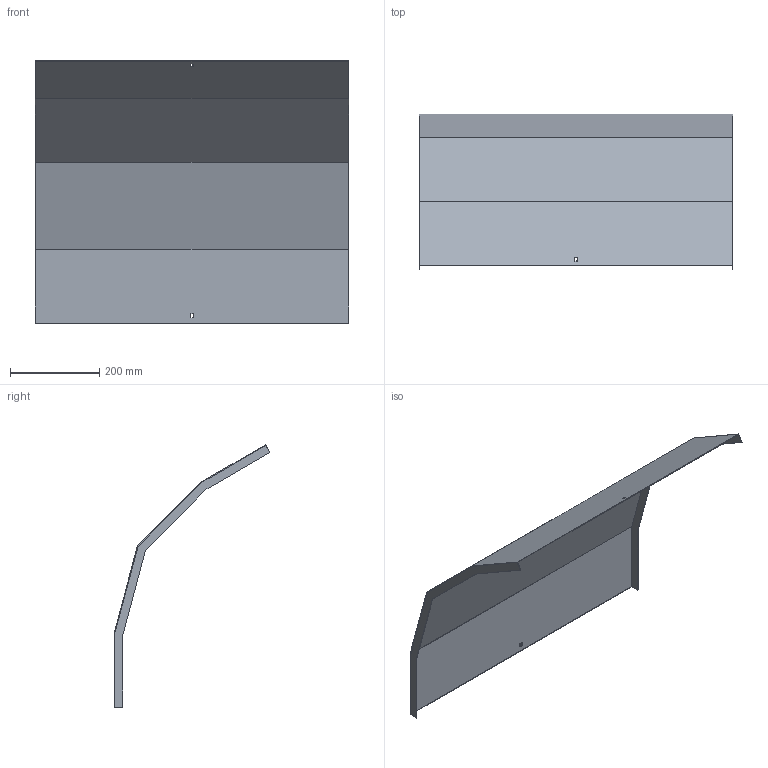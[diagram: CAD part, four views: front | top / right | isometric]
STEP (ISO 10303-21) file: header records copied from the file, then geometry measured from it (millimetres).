
FILE_DESCRIPTION (( 'STEP AP214' ), '1' );
FILE_NAME ('A2_41N3D700.step', '2025-02-21T10:40:14', ( '' ), ( '' ), 'SwSTEP 2.0', 'SolidWorks 2023', '' );
FILE_SCHEMA (( 'AUTOMOTIVE_DESIGN' ));
Length unit declared in the file: millimetre
Products named in the file (1): A2_41N3D700
Bounding box: 703 x 349.52 x 588.06 mm (x, y, z)
Volume: 816698 mm3; surface area: 1093394 mm2
Topology: 1 solids, 1 shells, 30 faces, 84 edges, 56 vertices
Faces by surface type: plane 30
Entity records: 979 total; most frequent: CARTESIAN_POINT 171, ORIENTED_EDGE 168, DIRECTION 146, LINE 84, EDGE_CURVE 84, VECTOR 84, VERTEX_POINT 56, EDGE_LOOP 34
